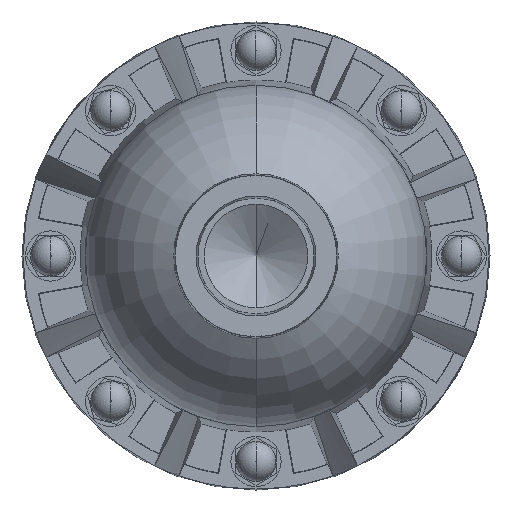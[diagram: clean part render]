
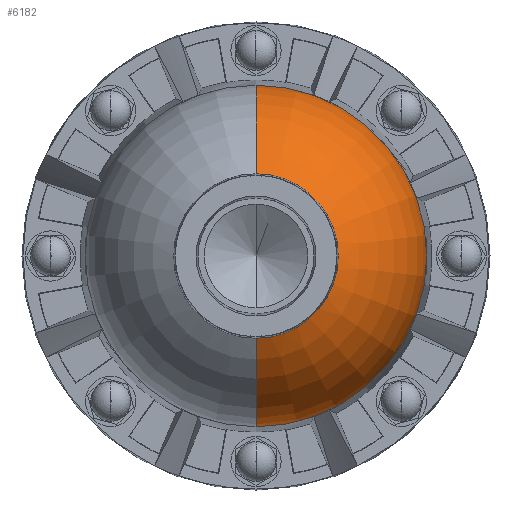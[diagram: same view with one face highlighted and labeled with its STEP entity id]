
A CAD part, front view. The second image highlights one B-rep face of the part: STEP entity #6182.
In plain terms, the highlighted toroidal (fillet/blend) face has major radius 0.91 mm and minor radius 37.084 mm.
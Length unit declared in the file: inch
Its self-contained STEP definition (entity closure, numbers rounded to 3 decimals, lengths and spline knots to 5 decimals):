
#211 = ORIENTED_EDGE ( 'NONE', *, *, #2255, .T. ) ;
#534 = ORIENTED_EDGE ( 'NONE', *, *, #11430, .F. ) ;
#769 = AXIS2_PLACEMENT_3D ( 'NONE', #2472, #9789, #3526 ) ;
#845 = EDGE_CURVE ( 'NONE', #5923, #1298, #6820, .T. ) ;
#1195 = ORIENTED_EDGE ( 'NONE', *, *, #845, .F. ) ;
#1256 = AXIS2_PLACEMENT_3D ( 'NONE', #5209, #12506, #6269 ) ;
#1298 = VERTEX_POINT ( 'NONE', #11761 ) ;
#1429 = CIRCLE ( 'NONE', #6618, 0.7206 ) ;
#1589 = VERTEX_POINT ( 'NONE', #9307 ) ;
#2097 = EDGE_CURVE ( 'NONE', #4918, #5923, #1429, .T. ) ;
#2255 = EDGE_CURVE ( 'NONE', #4918, #1589, #5328, .T. ) ;
#2472 = CARTESIAN_POINT ( 'NONE',  ( 0., -3.09, -0.03584 ) ) ;
#2649 = AXIS2_PLACEMENT_3D ( 'NONE', #5884, #7946, #13189 ) ;
#3526 = DIRECTION ( 'NONE',  ( 0., 0., -1. ) ) ;
#4265 = DIRECTION ( 'NONE',  ( 0., -1., 0. ) ) ;
#4763 = CARTESIAN_POINT ( 'NONE',  ( 0., -4.37946, -0.7206 ) ) ;
#4918 = VERTEX_POINT ( 'NONE', #4763 ) ;
#5042 = TOROIDAL_SURFACE ( 'NONE', #2649, 0.03584, 1.46 ) ;
#5209 = CARTESIAN_POINT ( 'NONE',  ( 0., -3.11548, 0. ) ) ;
#5328 = CIRCLE ( 'NONE', #769, 1.46 ) ;
#5428 = ORIENTED_EDGE ( 'NONE', *, *, #2097, .F. ) ;
#5825 = AXIS2_PLACEMENT_3D ( 'NONE', #6067, #13380, #7112 ) ;
#5884 = CARTESIAN_POINT ( 'NONE',  ( 0., -3.09, 0. ) ) ;
#5923 = VERTEX_POINT ( 'NONE', #11650 ) ;
#6067 = CARTESIAN_POINT ( 'NONE',  ( 0., -3.09, 0.03584 ) ) ;
#6182 = ADVANCED_FACE ( 'NONE', ( #13372 ), #5042, .T. ) ;
#6269 = DIRECTION ( 'NONE',  ( 0., 0., 1. ) ) ;
#6618 = AXIS2_PLACEMENT_3D ( 'NONE', #10532, #4265, #11551 ) ;
#6820 = CIRCLE ( 'NONE', #5825, 1.46 ) ;
#7112 = DIRECTION ( 'NONE',  ( 0., 0., 1. ) ) ;
#7376 = EDGE_LOOP ( 'NONE', ( #5428, #211, #534, #1195 ) ) ;
#7946 = DIRECTION ( 'NONE',  ( 0., 1., 0. ) ) ;
#9307 = CARTESIAN_POINT ( 'NONE',  ( 0., -3.11548, -1.49562 ) ) ;
#9654 = CIRCLE ( 'NONE', #1256, 1.49562 ) ;
#9789 = DIRECTION ( 'NONE',  ( 1., 0., 0. ) ) ;
#10532 = CARTESIAN_POINT ( 'NONE',  ( 0., -4.37946, 0. ) ) ;
#11430 = EDGE_CURVE ( 'NONE', #1298, #1589, #9654, .T. ) ;
#11551 = DIRECTION ( 'NONE',  ( 0., 0., 1. ) ) ;
#11650 = CARTESIAN_POINT ( 'NONE',  ( 0., -4.37946, 0.7206 ) ) ;
#11761 = CARTESIAN_POINT ( 'NONE',  ( 0., -3.11548, 1.49562 ) ) ;
#12506 = DIRECTION ( 'NONE',  ( 0., 1., 0. ) ) ;
#13189 = DIRECTION ( 'NONE',  ( 0., 0., 1. ) ) ;
#13372 = FACE_OUTER_BOUND ( 'NONE', #7376, .T. ) ;
#13380 = DIRECTION ( 'NONE',  ( -1., 0., 0. ) ) ;
